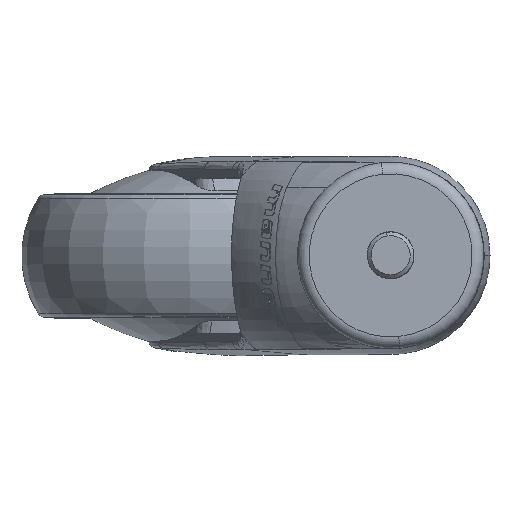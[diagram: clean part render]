
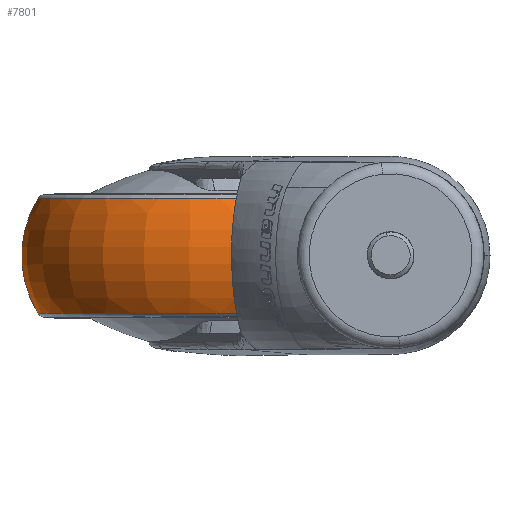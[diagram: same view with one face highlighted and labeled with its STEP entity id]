
A CAD part, top view. The second image highlights one B-rep face of the part: STEP entity #7801.
In plain terms, the highlighted toroidal (fillet/blend) face has major radius 22 mm and minor radius 28 mm.
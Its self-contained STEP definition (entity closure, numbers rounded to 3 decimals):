
#5980 = VERTEX_POINT ( 'NONE', #65714 ) ;
#6129 = VERTEX_POINT ( 'NONE', #65733 ) ;
#6783 = VERTEX_POINT ( 'NONE', #66076 ) ;
#6976 = VERTEX_POINT ( 'NONE', #66128 ) ;
#7399 = ORIENTED_EDGE ( 'NONE', *, *, #8133, .T. ) ;
#7618 = EDGE_LOOP ( 'NONE', ( #8404, #7399, #8167, #8103 ) ) ;
#7801 = ADVANCED_FACE ( 'NONE', ( #66286 ), #66284, .T. ) ;
#8072 = EDGE_CURVE ( 'NONE', #6976, #5980, #66356, .T. ) ;
#8103 = ORIENTED_EDGE ( 'NONE', *, *, #8072, .F. ) ;
#8133 = EDGE_CURVE ( 'NONE', #6783, #6129, #66376, .T. ) ;
#8167 = ORIENTED_EDGE ( 'NONE', *, *, #8324, .F. ) ;
#8324 = EDGE_CURVE ( 'NONE', #5980, #6129, #66371, .T. ) ;
#8404 = ORIENTED_EDGE ( 'NONE', *, *, #8556, .T. ) ;
#8556 = EDGE_CURVE ( 'NONE', #6976, #6783, #66404, .T. ) ;
#65714 = CARTESIAN_POINT ( 'NONE',  ( -85.25, 14.808, -2.923 ) ) ;
#65733 = CARTESIAN_POINT ( 'NONE',  ( -4.907, 14.808, 40.923 ) ) ;
#66076 = CARTESIAN_POINT ( 'NONE',  ( -4.907, -14.808, 40.923 ) ) ;
#66128 = CARTESIAN_POINT ( 'NONE',  ( -85.25, -14.808, -2.923 ) ) ;
#66282 = CARTESIAN_POINT ( 'NONE',  ( -45.078, 0., 19. ) ) ;
#66283 = AXIS2_PLACEMENT_3D ( 'NONE', #66282, #66316, #66315 ) ;
#66284 = TOROIDAL_SURFACE ( 'NONE', #66283, 22., 28. ) ;
#66286 = FACE_OUTER_BOUND ( 'NONE', #7618, .T. ) ;
#66315 = DIRECTION ( 'NONE',  ( -0.878, 0., -0.479 ) ) ;
#66316 = DIRECTION ( 'NONE',  ( 0., 1., 0. ) ) ;
#66352 = DIRECTION ( 'NONE',  ( -0.878, 0., -0.479 ) ) ;
#66353 = DIRECTION ( 'NONE',  ( 0.479, 0., -0.878 ) ) ;
#66354 = CARTESIAN_POINT ( 'NONE',  ( -64.39, 0., 8.461 ) ) ;
#66355 = AXIS2_PLACEMENT_3D ( 'NONE', #66354, #66353, #66352 ) ;
#66356 = CIRCLE ( 'NONE', #66355, 28. ) ;
#66367 = DIRECTION ( 'NONE',  ( -0.878, 0., -0.479 ) ) ;
#66368 = DIRECTION ( 'NONE',  ( 0., 1., 0. ) ) ;
#66369 = CARTESIAN_POINT ( 'NONE',  ( -45.078, 14.808, 19. ) ) ;
#66370 = AXIS2_PLACEMENT_3D ( 'NONE', #66369, #66368, #66367 ) ;
#66371 = CIRCLE ( 'NONE', #66370, 45.764 ) ;
#66372 = DIRECTION ( 'NONE',  ( 0.878, 0., 0.479 ) ) ;
#66373 = DIRECTION ( 'NONE',  ( -0.479, 0., 0.878 ) ) ;
#66374 = CARTESIAN_POINT ( 'NONE',  ( -25.767, 0., 29.539 ) ) ;
#66375 = AXIS2_PLACEMENT_3D ( 'NONE', #66374, #66373, #66372 ) ;
#66376 = CIRCLE ( 'NONE', #66375, 28. ) ;
#66400 = DIRECTION ( 'NONE',  ( -0.878, 0., -0.479 ) ) ;
#66401 = DIRECTION ( 'NONE',  ( 0., 1., 0. ) ) ;
#66402 = CARTESIAN_POINT ( 'NONE',  ( -45.078, -14.808, 19. ) ) ;
#66403 = AXIS2_PLACEMENT_3D ( 'NONE', #66402, #66401, #66400 ) ;
#66404 = CIRCLE ( 'NONE', #66403, 45.764 ) ;
